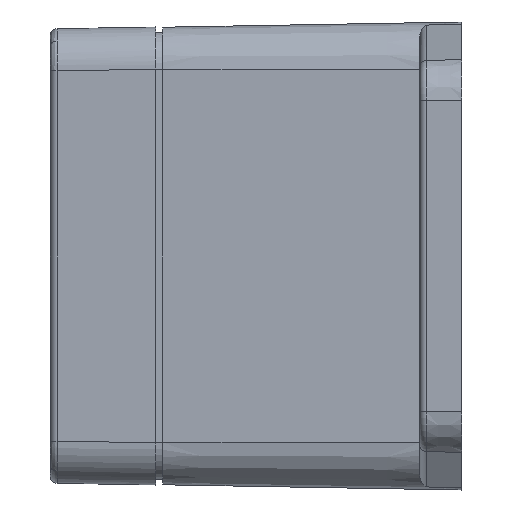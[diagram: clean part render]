
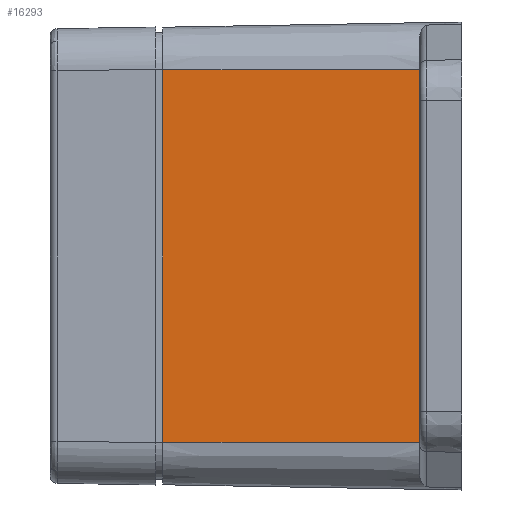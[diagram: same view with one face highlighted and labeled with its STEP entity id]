
A CAD part, left-side view. The second image highlights one B-rep face of the part: STEP entity #16293.
In plain terms, the highlighted planar face has unit normal (-1, 0.018, 0).
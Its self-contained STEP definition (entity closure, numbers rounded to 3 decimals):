
#827 = LINE ( 'NONE', #14128, #17234 ) ;
#2505 = CARTESIAN_POINT ( 'NONE',  ( -57.516, -0.995, 26.499 ) ) ;
#2666 = VECTOR ( 'NONE', #10307, 1000. ) ;
#3237 = FACE_OUTER_BOUND ( 'NONE', #7182, .T. ) ;
#3492 = DIRECTION ( 'NONE',  ( 0.017, 1., 0. ) ) ;
#3548 = VERTEX_POINT ( 'NONE', #9238 ) ;
#4126 = VECTOR ( 'NONE', #14093, 1000. ) ;
#5568 = VERTEX_POINT ( 'NONE', #14348 ) ;
#6506 = PLANE ( 'NONE',  #7881 ) ;
#7182 = EDGE_LOOP ( 'NONE', ( #10991, #20452, #17939, #17410 ) ) ;
#7881 = AXIS2_PLACEMENT_3D ( 'NONE', #19456, #17888, #8143 ) ;
#8143 = DIRECTION ( 'NONE',  ( -0.017, -1., 0. ) ) ;
#8400 = CARTESIAN_POINT ( 'NONE',  ( -57.499, 0., 26.499 ) ) ;
#8557 = EDGE_CURVE ( 'NONE', #12794, #3548, #827, .T. ) ;
#8935 = EDGE_CURVE ( 'NONE', #9002, #5568, #15722, .T. ) ;
#9002 = VERTEX_POINT ( 'NONE', #16979 ) ;
#9238 = CARTESIAN_POINT ( 'NONE',  ( -57.516, -0.995, -26.499 ) ) ;
#10307 = DIRECTION ( 'NONE',  ( 0., 0., 1. ) ) ;
#10912 = CARTESIAN_POINT ( 'NONE',  ( -57.499, 0., -26.499 ) ) ;
#10991 = ORIENTED_EDGE ( 'NONE', *, *, #16855, .T. ) ;
#11223 = LINE ( 'NONE', #8400, #20379 ) ;
#12794 = VERTEX_POINT ( 'NONE', #2505 ) ;
#13551 = CARTESIAN_POINT ( 'NONE',  ( -58.153, -37.502, -26.499 ) ) ;
#14093 = DIRECTION ( 'NONE',  ( 0.017, 1., 0. ) ) ;
#14128 = CARTESIAN_POINT ( 'NONE',  ( -57.516, -0.995, -26.499 ) ) ;
#14348 = CARTESIAN_POINT ( 'NONE',  ( -58.153, -37.502, 26.499 ) ) ;
#15722 = LINE ( 'NONE', #13551, #2666 ) ;
#16293 = ADVANCED_FACE ( 'NONE', ( #3237 ), #6506, .T. ) ;
#16855 = EDGE_CURVE ( 'NONE', #5568, #12794, #11223, .T. ) ;
#16979 = CARTESIAN_POINT ( 'NONE',  ( -58.153, -37.502, -26.499 ) ) ;
#17169 = LINE ( 'NONE', #10912, #4126 ) ;
#17234 = VECTOR ( 'NONE', #19065, 1000. ) ;
#17410 = ORIENTED_EDGE ( 'NONE', *, *, #8935, .T. ) ;
#17888 = DIRECTION ( 'NONE',  ( -1., 0.017, 0. ) ) ;
#17939 = ORIENTED_EDGE ( 'NONE', *, *, #20589, .F. ) ;
#19065 = DIRECTION ( 'NONE',  ( 0., 0., -1. ) ) ;
#19456 = CARTESIAN_POINT ( 'NONE',  ( -57.499, 0., -26.499 ) ) ;
#20379 = VECTOR ( 'NONE', #3492, 1000. ) ;
#20452 = ORIENTED_EDGE ( 'NONE', *, *, #8557, .T. ) ;
#20589 = EDGE_CURVE ( 'NONE', #9002, #3548, #17169, .T. ) ;
